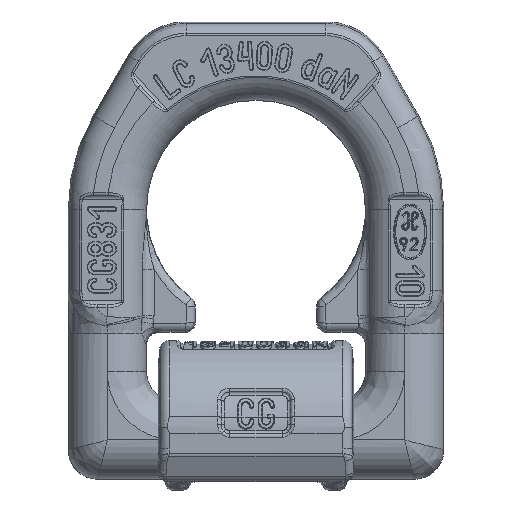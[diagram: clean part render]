
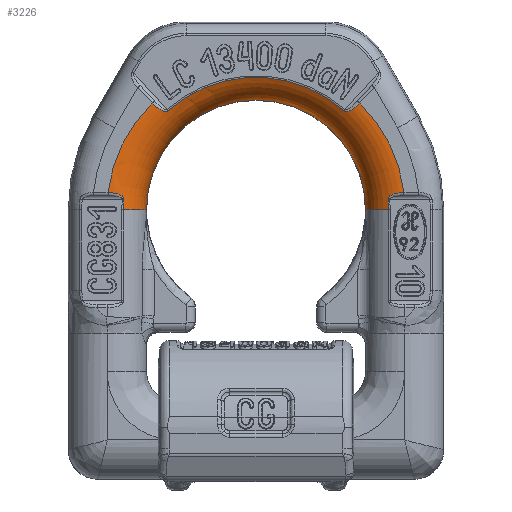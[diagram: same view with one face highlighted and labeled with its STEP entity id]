
A CAD part, front view. The second image highlights one B-rep face of the part: STEP entity #3226.
In plain terms, the highlighted toroidal (fillet/blend) face has major radius 45.599 mm and minor radius 12 mm.
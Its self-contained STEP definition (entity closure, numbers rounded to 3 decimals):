
#1271=TOROIDAL_SURFACE('',#28180,45.599,12.);
#1489=FACE_OUTER_BOUND('',#7845,.T.);
#3226=ADVANCED_FACE('',(#1489),#1271,.T.);
#5532=CIRCLE('',#28168,45.599);
#5534=CIRCLE('',#28171,45.599);
#5536=CIRCLE('',#28174,12.);
#5537=CIRCLE('',#28175,40.556);
#5538=CIRCLE('',#28176,40.556);
#5539=CIRCLE('',#28177,40.556);
#5540=CIRCLE('',#28178,12.);
#5541=CIRCLE('',#28179,33.628);
#6828=B_SPLINE_CURVE_WITH_KNOTS('',3,(#39500,#39501,#39502,#39503,#39504,
#39505,#39506,#39507),.UNSPECIFIED.,.F.,.F.,(4,2,2,4),(0.,0.25,0.5,
1.),.UNSPECIFIED.);
#6829=B_SPLINE_CURVE_WITH_KNOTS('',3,(#39508,#39509,#39510,#39511,#39512,
#39513,#39514,#39515),.UNSPECIFIED.,.F.,.F.,(4,2,2,4),(0.,0.5,
0.75,1.),.UNSPECIFIED.);
#6830=B_SPLINE_CURVE_WITH_KNOTS('',3,(#39519,#39520,#39521,#39522,#39523,
#39524,#39525,#39526),.UNSPECIFIED.,.F.,.F.,(4,2,2,4),(0.,0.25,
0.5,1.),.UNSPECIFIED.);
#6831=B_SPLINE_CURVE_WITH_KNOTS('',3,(#39527,#39528,#39529,#39530,#39531,
#39532,#39533,#39534),.UNSPECIFIED.,.F.,.F.,(4,2,2,4),(0.,0.5,
0.75,1.),.UNSPECIFIED.);
#7845=EDGE_LOOP('',(#10389,#10390,#10391,#10392,#10393,#10394,#10395,#10396,
#10397,#10398,#10399,#10400));
#10389=ORIENTED_EDGE('',*,*,#21090,.F.);
#10390=ORIENTED_EDGE('',*,*,#21091,.T.);
#10391=ORIENTED_EDGE('',*,*,#21092,.T.);
#10392=ORIENTED_EDGE('',*,*,#21080,.F.);
#10393=ORIENTED_EDGE('',*,*,#21093,.T.);
#10394=ORIENTED_EDGE('',*,*,#21094,.T.);
#10395=ORIENTED_EDGE('',*,*,#21095,.T.);
#10396=ORIENTED_EDGE('',*,*,#21085,.F.);
#10397=ORIENTED_EDGE('',*,*,#21096,.T.);
#10398=ORIENTED_EDGE('',*,*,#21097,.T.);
#10399=ORIENTED_EDGE('',*,*,#21098,.T.);
#10400=ORIENTED_EDGE('',*,*,#21099,.F.);
#18631=VERTEX_POINT('',#39474);
#18632=VERTEX_POINT('',#39475);
#18636=VERTEX_POINT('',#39485);
#18637=VERTEX_POINT('',#39486);
#18641=VERTEX_POINT('',#39496);
#18642=VERTEX_POINT('',#39497);
#18643=VERTEX_POINT('',#39499);
#18644=VERTEX_POINT('',#39516);
#18645=VERTEX_POINT('',#39518);
#18646=VERTEX_POINT('',#39535);
#18647=VERTEX_POINT('',#39537);
#18648=VERTEX_POINT('',#39539);
#21080=EDGE_CURVE('',#18631,#18632,#5532,.T.);
#21085=EDGE_CURVE('',#18636,#18637,#5534,.T.);
#21090=EDGE_CURVE('',#18641,#18642,#5536,.T.);
#21091=EDGE_CURVE('',#18641,#18643,#5537,.T.);
#21092=EDGE_CURVE('',#18643,#18632,#6828,.T.);
#21093=EDGE_CURVE('',#18631,#18644,#6829,.T.);
#21094=EDGE_CURVE('',#18644,#18645,#5538,.T.);
#21095=EDGE_CURVE('',#18645,#18637,#6830,.T.);
#21096=EDGE_CURVE('',#18636,#18646,#6831,.T.);
#21097=EDGE_CURVE('',#18646,#18647,#5539,.T.);
#21098=EDGE_CURVE('',#18647,#18648,#5540,.T.);
#21099=EDGE_CURVE('',#18642,#18648,#5541,.T.);
#28168=AXIS2_PLACEMENT_3D('',#39473,#31537,#31538);
#28171=AXIS2_PLACEMENT_3D('',#39484,#31546,#31547);
#28174=AXIS2_PLACEMENT_3D('',#39495,#31555,#31556);
#28175=AXIS2_PLACEMENT_3D('',#39498,#31557,#31558);
#28176=AXIS2_PLACEMENT_3D('',#39517,#31559,#31560);
#28177=AXIS2_PLACEMENT_3D('',#39536,#31561,#31562);
#28178=AXIS2_PLACEMENT_3D('',#39538,#31563,#31564);
#28179=AXIS2_PLACEMENT_3D('',#39540,#31565,#31566);
#28180=AXIS2_PLACEMENT_3D('',#39541,#31567,#31568);
#31537=DIRECTION('',(0.,1.,0.));
#31538=DIRECTION('',(1.,0.,0.));
#31546=DIRECTION('',(0.,1.,0.));
#31547=DIRECTION('',(1.,0.,0.));
#31555=DIRECTION('',(0.,0.,-1.));
#31556=DIRECTION('',(0.,1.,0.));
#31557=DIRECTION('',(0.,-1.,0.));
#31558=DIRECTION('',(-1.,0.,0.));
#31559=DIRECTION('',(0.,-1.,0.));
#31560=DIRECTION('',(-1.,0.,0.));
#31561=DIRECTION('',(0.,-1.,0.));
#31562=DIRECTION('',(-1.,0.,0.));
#31563=DIRECTION('',(0.,0.,1.));
#31564=DIRECTION('',(0.,-1.,0.));
#31565=DIRECTION('',(0.,-1.,0.));
#31566=DIRECTION('',(-1.,0.,0.));
#31567=DIRECTION('',(0.,-1.,0.));
#31568=DIRECTION('',(1.,0.,0.));
#39473=CARTESIAN_POINT('',(0.,-13.,70.5));
#39474=CARTESIAN_POINT('',(31.777,-13.,103.203));
#39475=CARTESIAN_POINT('',(45.298,-13.,75.732));
#39484=CARTESIAN_POINT('',(0.,-13.,70.5));
#39485=CARTESIAN_POINT('',(-45.298,-13.,75.732));
#39486=CARTESIAN_POINT('',(-31.777,-13.,103.203));
#39495=CARTESIAN_POINT('',(45.599,-1.,70.5));
#39496=CARTESIAN_POINT('',(40.556,-11.889,70.5));
#39497=CARTESIAN_POINT('',(33.628,-1.837,70.5));
#39498=CARTESIAN_POINT('',(0.,-11.889,70.5));
#39499=CARTESIAN_POINT('',(40.438,-11.889,73.595));
#39500=CARTESIAN_POINT('',(40.438,-11.889,73.595));
#39501=CARTESIAN_POINT('',(40.399,-11.889,74.098));
#39502=CARTESIAN_POINT('',(40.724,-12.06,74.537));
#39503=CARTESIAN_POINT('',(41.486,-12.37,75.09));
#39504=CARTESIAN_POINT('',(41.94,-12.522,75.262));
#39505=CARTESIAN_POINT('',(43.337,-12.88,75.642));
#39506=CARTESIAN_POINT('',(44.306,-13.,75.72));
#39507=CARTESIAN_POINT('',(45.298,-13.,75.732));
#39508=CARTESIAN_POINT('',(31.777,-13.,103.203));
#39509=CARTESIAN_POINT('',(31.094,-13.,102.465));
#39510=CARTESIAN_POINT('',(30.36,-12.871,101.78));
#39511=CARTESIAN_POINT('',(29.129,-12.51,100.992));
#39512=CARTESIAN_POINT('',(28.697,-12.36,100.77));
#39513=CARTESIAN_POINT('',(27.757,-12.054,100.554));
#39514=CARTESIAN_POINT('',(27.215,-11.889,100.573));
#39515=CARTESIAN_POINT('',(26.831,-11.889,100.912));
#39516=CARTESIAN_POINT('',(26.831,-11.889,100.912));
#39517=CARTESIAN_POINT('',(0.,-11.889,70.5));
#39518=CARTESIAN_POINT('',(-26.831,-11.889,100.912));
#39519=CARTESIAN_POINT('',(-26.831,-11.889,100.912));
#39520=CARTESIAN_POINT('',(-27.215,-11.889,100.573));
#39521=CARTESIAN_POINT('',(-27.764,-12.056,100.555));
#39522=CARTESIAN_POINT('',(-28.698,-12.361,100.771));
#39523=CARTESIAN_POINT('',(-29.134,-12.512,100.995));
#39524=CARTESIAN_POINT('',(-30.373,-12.874,101.79));
#39525=CARTESIAN_POINT('',(-31.093,-13.,102.464));
#39526=CARTESIAN_POINT('',(-31.777,-13.,103.203));
#39527=CARTESIAN_POINT('',(-45.298,-13.,75.732));
#39528=CARTESIAN_POINT('',(-44.307,-13.,75.72));
#39529=CARTESIAN_POINT('',(-43.316,-12.875,75.638));
#39530=CARTESIAN_POINT('',(-41.933,-12.519,75.259));
#39531=CARTESIAN_POINT('',(-41.483,-12.369,75.089));
#39532=CARTESIAN_POINT('',(-40.72,-12.058,74.533));
#39533=CARTESIAN_POINT('',(-40.399,-11.889,74.098));
#39534=CARTESIAN_POINT('',(-40.438,-11.889,73.595));
#39535=CARTESIAN_POINT('',(-40.438,-11.889,73.595));
#39536=CARTESIAN_POINT('',(0.,-11.889,70.5));
#39537=CARTESIAN_POINT('',(-40.556,-11.889,70.5));
#39538=CARTESIAN_POINT('',(-45.599,-1.,70.5));
#39539=CARTESIAN_POINT('',(-33.628,-1.837,70.5));
#39540=CARTESIAN_POINT('',(0.,-1.837,70.5));
#39541=CARTESIAN_POINT('',(0.,-1.,70.5));
